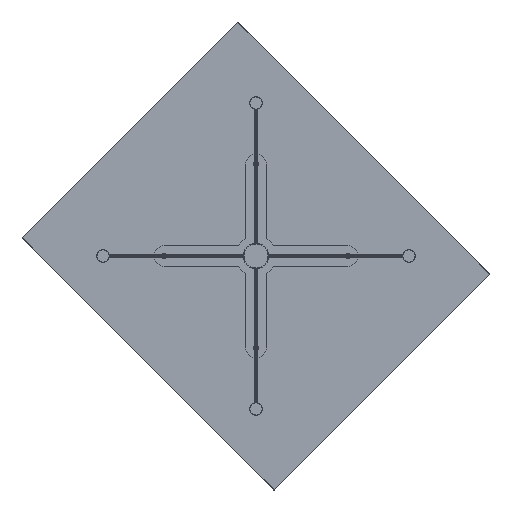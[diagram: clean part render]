
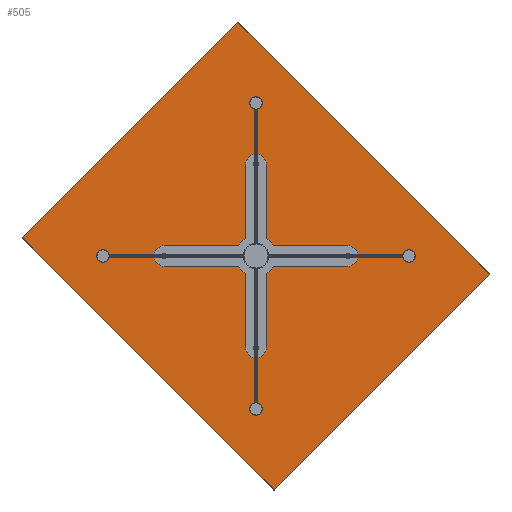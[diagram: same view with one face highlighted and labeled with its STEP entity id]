
A CAD part, front view. The second image highlights one B-rep face of the part: STEP entity #505.
In plain terms, the highlighted planar face has unit normal (0, -1, 0).
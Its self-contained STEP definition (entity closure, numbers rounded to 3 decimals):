
#99 = CARTESIAN_POINT ( 'NONE',  ( 0., -10., 0. ) ) ;
#113 = ORIENTED_EDGE ( 'NONE', *, *, #291, .T. ) ;
#221 = DIRECTION ( 'NONE',  ( 0., 1., 0. ) ) ;
#228 = VERTEX_POINT ( 'NONE', #2169 ) ;
#291 = EDGE_CURVE ( 'NONE', #5050, #10528, #6404, .T. ) ;
#378 = CARTESIAN_POINT ( 'NONE',  ( -299., -10., -349. ) ) ;
#399 = LINE ( 'NONE', #4095, #10531 ) ;
#440 = EDGE_CURVE ( 'NONE', #10754, #1752, #5360, .T. ) ;
#505 = ADVANCED_FACE ( 'NONE', ( #1970, #5664, #5602, #7417, #11258 ), #9245, .T. ) ;
#638 = EDGE_LOOP ( 'NONE', ( #10994, #9804 ) ) ;
#643 = CIRCLE ( 'NONE', #8189, 4. ) ;
#785 = CARTESIAN_POINT ( 'NONE',  ( -127.279, -10., 131.279 ) ) ;
#1000 = DIRECTION ( 'NONE',  ( 0., -1., 0. ) ) ;
#1159 = AXIS2_PLACEMENT_3D ( 'NONE', #2539, #9823, #6122 ) ;
#1222 = CARTESIAN_POINT ( 'NONE',  ( -299., -10., -350. ) ) ;
#1250 = CARTESIAN_POINT ( 'NONE',  ( -127.279, -10., -127.279 ) ) ;
#1465 = ORIENTED_EDGE ( 'NONE', *, *, #9426, .T. ) ;
#1543 = DIRECTION ( 'NONE',  ( 0., 0., -1. ) ) ;
#1752 = VERTEX_POINT ( 'NONE', #3040 ) ;
#1759 = VERTEX_POINT ( 'NONE', #10442 ) ;
#1970 = FACE_OUTER_BOUND ( 'NONE', #3452, .T. ) ;
#1989 = EDGE_CURVE ( 'NONE', #9411, #2669, #10911, .T. ) ;
#2088 = CARTESIAN_POINT ( 'NONE',  ( 127.279, -10., -127.279 ) ) ;
#2169 = CARTESIAN_POINT ( 'NONE',  ( -127.279, -10., -123.279 ) ) ;
#2200 = CARTESIAN_POINT ( 'NONE',  ( 299., -10., -349. ) ) ;
#2301 = VERTEX_POINT ( 'NONE', #9335 ) ;
#2400 = DIRECTION ( 'NONE',  ( 0., 1., 0. ) ) ;
#2539 = CARTESIAN_POINT ( 'NONE',  ( -127.279, -10., -127.279 ) ) ;
#2659 = CARTESIAN_POINT ( 'NONE',  ( 127.279, -10., -127.279 ) ) ;
#2669 = VERTEX_POINT ( 'NONE', #3601 ) ;
#3040 = CARTESIAN_POINT ( 'NONE',  ( -299., -10., 349. ) ) ;
#3354 = CARTESIAN_POINT ( 'NONE',  ( 127.279, -10., 127.279 ) ) ;
#3429 = VERTEX_POINT ( 'NONE', #2200 ) ;
#3451 = VERTEX_POINT ( 'NONE', #378 ) ;
#3452 = EDGE_LOOP ( 'NONE', ( #10048, #11730, #8307, #11047 ) ) ;
#3601 = CARTESIAN_POINT ( 'NONE',  ( -127.279, -10., 123.279 ) ) ;
#3653 = CARTESIAN_POINT ( 'NONE',  ( 127.279, -10., 131.279 ) ) ;
#3785 = DIRECTION ( 'NONE',  ( 0., 0., -1. ) ) ;
#3864 = ORIENTED_EDGE ( 'NONE', *, *, #8873, .T. ) ;
#3904 = DIRECTION ( 'NONE',  ( 0., 1., 0. ) ) ;
#4095 = CARTESIAN_POINT ( 'NONE',  ( 299., -10., 350. ) ) ;
#4138 = CIRCLE ( 'NONE', #8588, 4. ) ;
#4165 = CARTESIAN_POINT ( 'NONE',  ( 127.279, -10., 127.279 ) ) ;
#4244 = LINE ( 'NONE', #1222, #9718 ) ;
#4256 = EDGE_LOOP ( 'NONE', ( #7432, #113 ) ) ;
#4299 = CARTESIAN_POINT ( 'NONE',  ( -127.279, -10., 127.279 ) ) ;
#4696 = DIRECTION ( 'NONE',  ( 0., 0., -1. ) ) ;
#4922 = DIRECTION ( 'NONE',  ( 0., 0., -1. ) ) ;
#4955 = DIRECTION ( 'NONE',  ( 0., 1., 0. ) ) ;
#5027 = EDGE_LOOP ( 'NONE', ( #3864, #9391 ) ) ;
#5050 = VERTEX_POINT ( 'NONE', #3653 ) ;
#5360 = LINE ( 'NONE', #10281, #9702 ) ;
#5602 = FACE_BOUND ( 'NONE', #10583, .T. ) ;
#5664 = FACE_BOUND ( 'NONE', #4256, .T. ) ;
#5875 = CIRCLE ( 'NONE', #8967, 4. ) ;
#5927 = EDGE_CURVE ( 'NONE', #9398, #228, #11039, .T. ) ;
#6122 = DIRECTION ( 'NONE',  ( 0., 0., -1. ) ) ;
#6238 = CARTESIAN_POINT ( 'NONE',  ( -127.279, -10., -131.279 ) ) ;
#6404 = CIRCLE ( 'NONE', #8727, 4. ) ;
#6604 = CIRCLE ( 'NONE', #11068, 4. ) ;
#6866 = DIRECTION ( 'NONE',  ( 0., 0., -1. ) ) ;
#6903 = DIRECTION ( 'NONE',  ( 0., 1., 0. ) ) ;
#7262 = DIRECTION ( 'NONE',  ( 0., 1., 0. ) ) ;
#7320 = DIRECTION ( 'NONE',  ( 0., 0., -1. ) ) ;
#7417 = FACE_BOUND ( 'NONE', #638, .T. ) ;
#7432 = ORIENTED_EDGE ( 'NONE', *, *, #11659, .T. ) ;
#7562 = CIRCLE ( 'NONE', #7587, 4. ) ;
#7587 = AXIS2_PLACEMENT_3D ( 'NONE', #2088, #3904, #3785 ) ;
#7681 = EDGE_CURVE ( 'NONE', #3451, #3429, #11886, .T. ) ;
#8189 = AXIS2_PLACEMENT_3D ( 'NONE', #1250, #221, #9487 ) ;
#8307 = ORIENTED_EDGE ( 'NONE', *, *, #8726, .T. ) ;
#8513 = DIRECTION ( 'NONE',  ( -1., 0., 0. ) ) ;
#8516 = EDGE_CURVE ( 'NONE', #228, #9398, #643, .T. ) ;
#8588 = AXIS2_PLACEMENT_3D ( 'NONE', #2659, #7262, #7320 ) ;
#8726 = EDGE_CURVE ( 'NONE', #3429, #10754, #399, .T. ) ;
#8727 = AXIS2_PLACEMENT_3D ( 'NONE', #4165, #4955, #8769 ) ;
#8766 = AXIS2_PLACEMENT_3D ( 'NONE', #4299, #6903, #10615 ) ;
#8769 = DIRECTION ( 'NONE',  ( 0., 0., -1. ) ) ;
#8873 = EDGE_CURVE ( 'NONE', #2669, #9411, #5875, .T. ) ;
#8967 = AXIS2_PLACEMENT_3D ( 'NONE', #10706, #2400, #1543 ) ;
#9071 = VECTOR ( 'NONE', #11711, 1000. ) ;
#9093 = CARTESIAN_POINT ( 'NONE',  ( 299., -10., 349. ) ) ;
#9114 = ORIENTED_EDGE ( 'NONE', *, *, #11514, .T. ) ;
#9245 = PLANE ( 'NONE',  #10676 ) ;
#9335 = CARTESIAN_POINT ( 'NONE',  ( 127.279, -10., -131.279 ) ) ;
#9391 = ORIENTED_EDGE ( 'NONE', *, *, #1989, .T. ) ;
#9398 = VERTEX_POINT ( 'NONE', #6238 ) ;
#9411 = VERTEX_POINT ( 'NONE', #785 ) ;
#9426 = EDGE_CURVE ( 'NONE', #2301, #1759, #4138, .T. ) ;
#9487 = DIRECTION ( 'NONE',  ( 0., 0., -1. ) ) ;
#9702 = VECTOR ( 'NONE', #8513, 1000. ) ;
#9718 = VECTOR ( 'NONE', #4922, 1000. ) ;
#9804 = ORIENTED_EDGE ( 'NONE', *, *, #8516, .T. ) ;
#9823 = DIRECTION ( 'NONE',  ( 0., 1., 0. ) ) ;
#10048 = ORIENTED_EDGE ( 'NONE', *, *, #10592, .T. ) ;
#10281 = CARTESIAN_POINT ( 'NONE',  ( -300., -10., 349. ) ) ;
#10442 = CARTESIAN_POINT ( 'NONE',  ( 127.279, -10., -123.279 ) ) ;
#10528 = VERTEX_POINT ( 'NONE', #10567 ) ;
#10531 = VECTOR ( 'NONE', #10534, 1000. ) ;
#10534 = DIRECTION ( 'NONE',  ( 0., 0., 1. ) ) ;
#10567 = CARTESIAN_POINT ( 'NONE',  ( 127.279, -10., 123.279 ) ) ;
#10583 = EDGE_LOOP ( 'NONE', ( #1465, #9114 ) ) ;
#10592 = EDGE_CURVE ( 'NONE', #1752, #3451, #4244, .T. ) ;
#10615 = DIRECTION ( 'NONE',  ( 0., 0., -1. ) ) ;
#10676 = AXIS2_PLACEMENT_3D ( 'NONE', #99, #1000, #4696 ) ;
#10706 = CARTESIAN_POINT ( 'NONE',  ( -127.279, -10., 127.279 ) ) ;
#10754 = VERTEX_POINT ( 'NONE', #9093 ) ;
#10911 = CIRCLE ( 'NONE', #8766, 4. ) ;
#10974 = CARTESIAN_POINT ( 'NONE',  ( 300., -10., -349. ) ) ;
#10994 = ORIENTED_EDGE ( 'NONE', *, *, #5927, .T. ) ;
#11039 = CIRCLE ( 'NONE', #1159, 4. ) ;
#11047 = ORIENTED_EDGE ( 'NONE', *, *, #440, .T. ) ;
#11068 = AXIS2_PLACEMENT_3D ( 'NONE', #3354, #11492, #6866 ) ;
#11258 = FACE_BOUND ( 'NONE', #5027, .T. ) ;
#11492 = DIRECTION ( 'NONE',  ( 0., 1., 0. ) ) ;
#11514 = EDGE_CURVE ( 'NONE', #1759, #2301, #7562, .T. ) ;
#11659 = EDGE_CURVE ( 'NONE', #10528, #5050, #6604, .T. ) ;
#11711 = DIRECTION ( 'NONE',  ( 1., 0., 0. ) ) ;
#11730 = ORIENTED_EDGE ( 'NONE', *, *, #7681, .T. ) ;
#11886 = LINE ( 'NONE', #10974, #9071 ) ;
